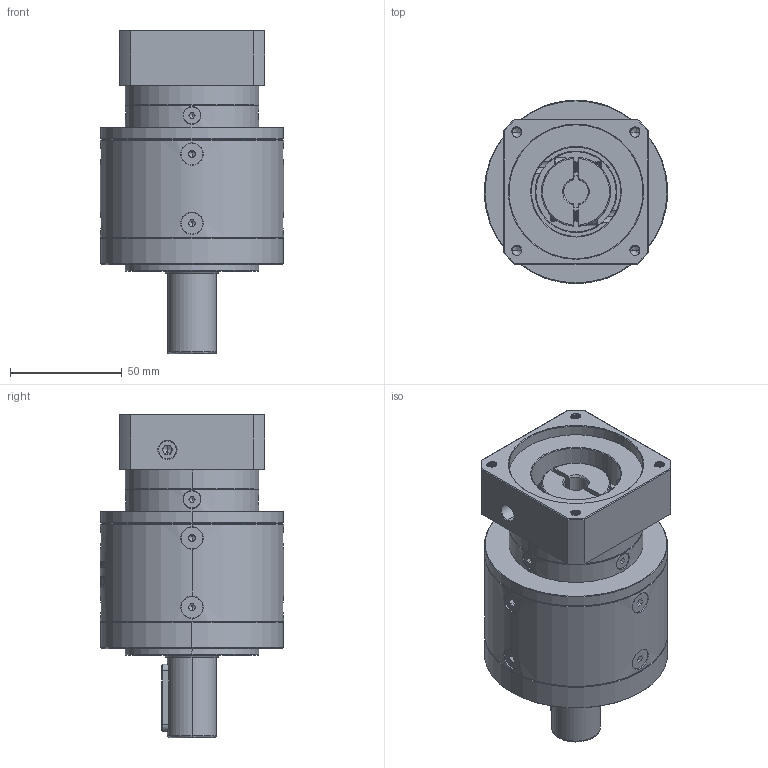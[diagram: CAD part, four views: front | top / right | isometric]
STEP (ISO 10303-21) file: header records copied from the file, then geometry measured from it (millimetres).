
FILE_DESCRIPTION (( 'STEP AP214' ), '1' );
FILE_NAME ('ZE80-D22-L2-11-60-75-M5.step', '2022-05-08T06:02:57', ( '' ), ( 'Microsoft' ), 'SwSTEP 2.0', 'SolidWorks 2016', '' );
FILE_SCHEMA (( 'AUTOMOTIVE_DESIGN' ));
Length unit declared in the file: millimetre
Products named in the file (1): ZE80-D22-L2-11-60-75-M5
Bounding box: 82 x 82 x 145 mm (x, y, z)
Volume: 459002.5 mm3; surface area: 67195.1 mm2
Topology: 18 solids, 18 shells, 2131 faces, 5599 edges, 3560 vertices
Faces by surface type: plane 948, cylinder 517, bspline 340, cone 312, torus 14
Entity records: 121680 total; most frequent: CARTESIAN_POINT 49922, ORIENTED_EDGE 11106, DIRECTION 8637, EDGE_CURVE 5553, VERTEX_POINT 3560, VECTOR 2969, LINE 2969, AXIS2_PLACEMENT_3D 2834
